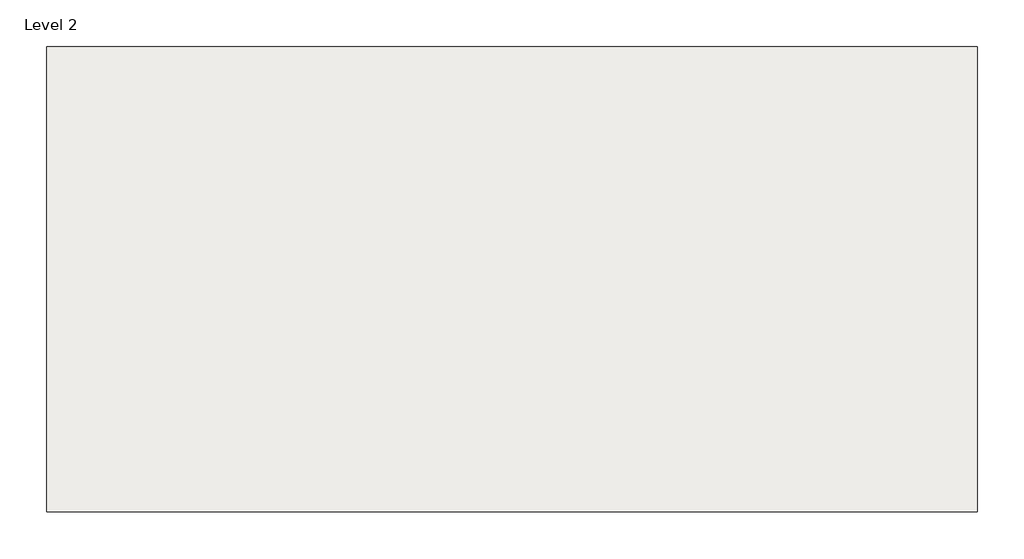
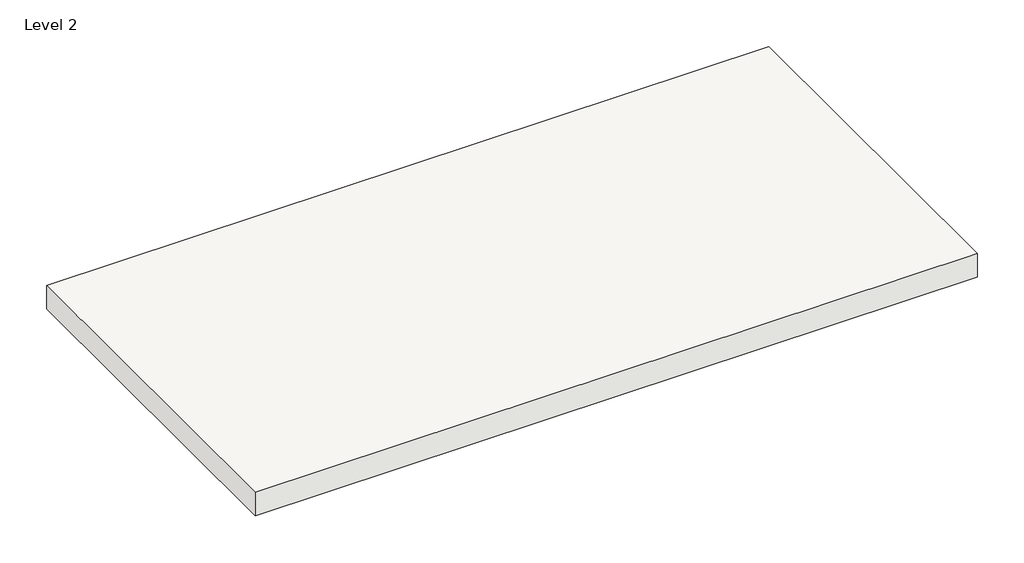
# One storey: 1 slab.
"""IFC4 building model written with IfcOpenShell, lengths in millimetres."""

from ifc_helpers import new_model, si_unit, frame, origin, place, context, project, spatial, polyline, outline, extrude, element, save

model = new_model("IFC4")

# Units and contexts
model_context = context("Model", 3, world=origin())
ifc_project = project(units=[si_unit("LENGTHUNIT", "METRE", prefix="MILLI")], contexts=[model_context])

# Site, building, storey
site = spatial("IfcSite", under=ifc_project)
building = spatial("IfcBuilding", under=site)
storey = spatial("IfcBuildingStorey", under=building, Name="Level 2", Elevation=3048.0)

# Slab
placement = place(None, origin())
element("IfcSlab", 1, ObjectType="Generic - 12\"", at=placement, inside=storey, context=model_context, shape_type="SweptSolid", body=[
    extrude(outline(polyline([(5987.4558373, 909.2024759), (-2851.7441627, 909.2024759), (-2851.7441627, 5328.8024759), (5987.4558373, 5328.8024759), (5987.4558373, 909.2024759)])), frame((0.0, 0.0, 3048.0), z_axis=(0.0, 0.0, 1.0), x_axis=(1.0, 0.0, 0.0)), (0.0, 0.0, 1.0), 304.8),
])

save(model, "model.ifc")
